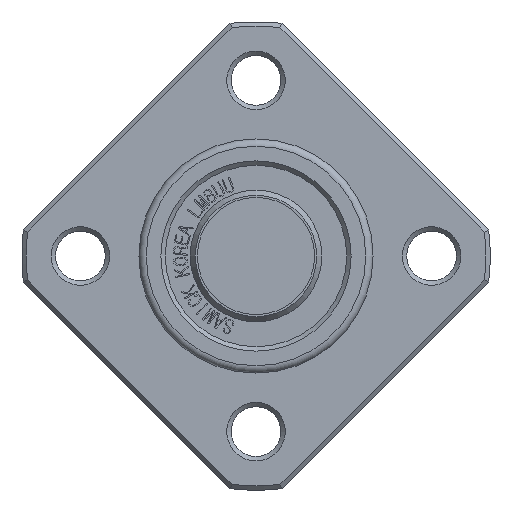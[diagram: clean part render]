
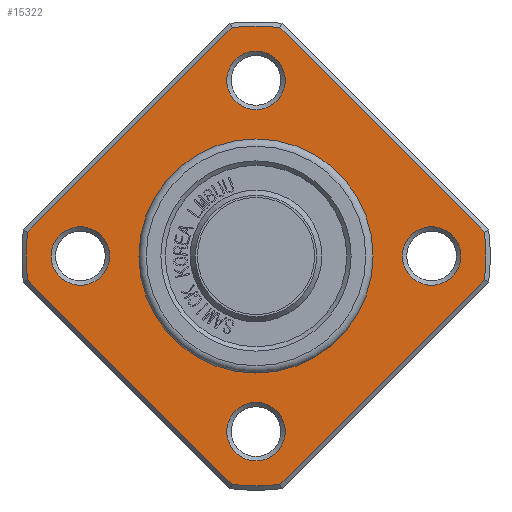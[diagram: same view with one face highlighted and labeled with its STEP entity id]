
A CAD part, front view. The second image highlights one B-rep face of the part: STEP entity #15322.
In plain terms, the highlighted planar face has unit normal (0, -1, 0).
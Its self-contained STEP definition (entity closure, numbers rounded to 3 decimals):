
#2183=FACE_BOUND('',#3336,.T.);
#2184=FACE_BOUND('',#3337,.T.);
#2185=FACE_BOUND('',#3338,.T.);
#2186=FACE_BOUND('',#3339,.T.);
#2187=FACE_BOUND('',#3340,.T.);
#2243=PLANE('',#16210);
#2478=FACE_OUTER_BOUND('',#3335,.T.);
#3335=EDGE_LOOP('',(#10563,#10564,#10565,#10566,#10567,#10568,#10569,#10570));
#3336=EDGE_LOOP('',(#10571));
#3337=EDGE_LOOP('',(#10572));
#3338=EDGE_LOOP('',(#10573,#10574));
#3339=EDGE_LOOP('',(#10575));
#3340=EDGE_LOOP('',(#10576));
#4249=LINE('',#18445,#5365);
#4250=LINE('',#18449,#5366);
#4251=LINE('',#18453,#5367);
#4252=LINE('',#18457,#5368);
#5365=VECTOR('',#16603,10.);
#5366=VECTOR('',#16606,10.);
#5367=VECTOR('',#16609,10.);
#5368=VECTOR('',#16612,10.);
#6488=CIRCLE('',#16208,2.);
#6490=CIRCLE('',#16211,15.7);
#6491=CIRCLE('',#16212,15.7);
#6492=CIRCLE('',#16213,15.7);
#6493=CIRCLE('',#16214,15.7);
#6494=CIRCLE('',#16215,2.);
#6495=CIRCLE('',#16216,2.);
#6496=CIRCLE('',#16217,8.);
#6497=CIRCLE('',#16218,8.);
#6498=CIRCLE('',#16219,2.);
#6582=VERTEX_POINT('',#18437);
#6584=VERTEX_POINT('',#18443);
#6585=VERTEX_POINT('',#18444);
#6586=VERTEX_POINT('',#18446);
#6587=VERTEX_POINT('',#18448);
#6588=VERTEX_POINT('',#18450);
#6589=VERTEX_POINT('',#18452);
#6590=VERTEX_POINT('',#18454);
#6591=VERTEX_POINT('',#18456);
#6592=VERTEX_POINT('',#18459);
#6593=VERTEX_POINT('',#18461);
#6594=VERTEX_POINT('',#18463);
#6595=VERTEX_POINT('',#18464);
#6596=VERTEX_POINT('',#18467);
#8172=EDGE_CURVE('',#6582,#6582,#6488,.T.);
#8175=EDGE_CURVE('',#6584,#6585,#4249,.T.);
#8176=EDGE_CURVE('',#6584,#6586,#6490,.T.);
#8177=EDGE_CURVE('',#6587,#6586,#4250,.T.);
#8178=EDGE_CURVE('',#6587,#6588,#6491,.T.);
#8179=EDGE_CURVE('',#6589,#6588,#4251,.T.);
#8180=EDGE_CURVE('',#6589,#6590,#6492,.T.);
#8181=EDGE_CURVE('',#6591,#6590,#4252,.T.);
#8182=EDGE_CURVE('',#6591,#6585,#6493,.T.);
#8183=EDGE_CURVE('',#6592,#6592,#6494,.T.);
#8184=EDGE_CURVE('',#6593,#6593,#6495,.T.);
#8185=EDGE_CURVE('',#6594,#6595,#6496,.T.);
#8186=EDGE_CURVE('',#6595,#6594,#6497,.T.);
#8187=EDGE_CURVE('',#6596,#6596,#6498,.T.);
#10563=ORIENTED_EDGE('',*,*,#8175,.F.);
#10564=ORIENTED_EDGE('',*,*,#8176,.T.);
#10565=ORIENTED_EDGE('',*,*,#8177,.F.);
#10566=ORIENTED_EDGE('',*,*,#8178,.T.);
#10567=ORIENTED_EDGE('',*,*,#8179,.F.);
#10568=ORIENTED_EDGE('',*,*,#8180,.T.);
#10569=ORIENTED_EDGE('',*,*,#8181,.F.);
#10570=ORIENTED_EDGE('',*,*,#8182,.T.);
#10571=ORIENTED_EDGE('',*,*,#8183,.F.);
#10572=ORIENTED_EDGE('',*,*,#8184,.F.);
#10573=ORIENTED_EDGE('',*,*,#8185,.F.);
#10574=ORIENTED_EDGE('',*,*,#8186,.F.);
#10575=ORIENTED_EDGE('',*,*,#8187,.F.);
#10576=ORIENTED_EDGE('',*,*,#8172,.F.);
#15322=ADVANCED_FACE('',(#2478,#2183,#2184,#2185,#2186,#2187),#2243,.T.);
#16208=AXIS2_PLACEMENT_3D('',#18438,#16596,#16597);
#16210=AXIS2_PLACEMENT_3D('',#18442,#16601,#16602);
#16211=AXIS2_PLACEMENT_3D('',#18447,#16604,#16605);
#16212=AXIS2_PLACEMENT_3D('',#18451,#16607,#16608);
#16213=AXIS2_PLACEMENT_3D('',#18455,#16610,#16611);
#16214=AXIS2_PLACEMENT_3D('',#18458,#16613,#16614);
#16215=AXIS2_PLACEMENT_3D('',#18460,#16615,#16616);
#16216=AXIS2_PLACEMENT_3D('',#18462,#16617,#16618);
#16217=AXIS2_PLACEMENT_3D('',#18465,#16619,#16620);
#16218=AXIS2_PLACEMENT_3D('',#18466,#16621,#16622);
#16219=AXIS2_PLACEMENT_3D('',#18468,#16623,#16624);
#16596=DIRECTION('center_axis',(0.,-1.,0.));
#16597=DIRECTION('ref_axis',(-1.,0.,0.));
#16601=DIRECTION('center_axis',(0.,-1.,0.));
#16602=DIRECTION('ref_axis',(0.,0.,-1.));
#16603=DIRECTION('',(-0.707,0.,-0.707));
#16604=DIRECTION('center_axis',(0.,-1.,0.));
#16605=DIRECTION('ref_axis',(1.,0.,0.));
#16606=DIRECTION('',(0.707,0.,-0.707));
#16607=DIRECTION('center_axis',(0.,-1.,0.));
#16608=DIRECTION('ref_axis',(1.,0.,0.));
#16609=DIRECTION('',(0.707,0.,0.707));
#16610=DIRECTION('center_axis',(0.,-1.,0.));
#16611=DIRECTION('ref_axis',(1.,0.,0.));
#16612=DIRECTION('',(-0.707,0.,0.707));
#16613=DIRECTION('center_axis',(0.,-1.,0.));
#16614=DIRECTION('ref_axis',(1.,0.,0.));
#16615=DIRECTION('center_axis',(0.,-1.,0.));
#16616=DIRECTION('ref_axis',(0.,0.,-1.));
#16617=DIRECTION('center_axis',(0.,-1.,0.));
#16618=DIRECTION('ref_axis',(0.,0.,
1.));
#16619=DIRECTION('center_axis',(0.,-1.,0.));
#16620=DIRECTION('ref_axis',(1.,0.,0.));
#16621=DIRECTION('center_axis',(0.,-1.,0.));
#16622=DIRECTION('ref_axis',(1.,0.,0.));
#16623=DIRECTION('center_axis',(0.,-1.,0.));
#16624=DIRECTION('ref_axis',(1.,0.,0.));
#18437=CARTESIAN_POINT('',(-10.,12.5,0.));
#18438=CARTESIAN_POINT('Origin',(-12.,12.5,0.));
#18442=CARTESIAN_POINT('Origin',(8.,12.5,0.));
#18443=CARTESIAN_POINT('',(15.614,12.5,-1.639));
#18444=CARTESIAN_POINT('',(1.639,12.5,-15.614));
#18445=CARTESIAN_POINT('',(14.158,12.5,-3.096));
#18446=CARTESIAN_POINT('',(15.614,12.5,1.639));
#18447=CARTESIAN_POINT('Origin',(0.,12.5,0.));
#18448=CARTESIAN_POINT('',(1.639,12.5,15.614));
#18449=CARTESIAN_POINT('',(7.096,12.5,10.158));
#18450=CARTESIAN_POINT('',(-1.639,12.5,15.614));
#18451=CARTESIAN_POINT('Origin',(0.,12.5,0.));
#18452=CARTESIAN_POINT('',(-15.614,12.5,1.639));
#18453=CARTESIAN_POINT('',(-10.158,12.5,7.096));
#18454=CARTESIAN_POINT('',(-15.614,12.5,-1.639));
#18455=CARTESIAN_POINT('Origin',(0.,12.5,0.));
#18456=CARTESIAN_POINT('',(-1.639,12.5,-15.614));
#18457=CARTESIAN_POINT('',(-3.096,12.5,-14.158));
#18458=CARTESIAN_POINT('Origin',(0.,12.5,0.));
#18459=CARTESIAN_POINT('',(0.,12.5,-10.));
#18460=CARTESIAN_POINT('Origin',(0.,12.5,-12.));
#18461=CARTESIAN_POINT('',(0.,12.5,10.));
#18462=CARTESIAN_POINT('Origin',(0.,12.5,12.));
#18463=CARTESIAN_POINT('',(8.,12.5,0.));
#18464=CARTESIAN_POINT('',(-8.,12.5,0.));
#18465=CARTESIAN_POINT('Origin',(0.,12.5,0.));
#18466=CARTESIAN_POINT('Origin',(0.,12.5,0.));
#18467=CARTESIAN_POINT('',(10.,12.5,0.));
#18468=CARTESIAN_POINT('Origin',(12.,12.5,0.));
